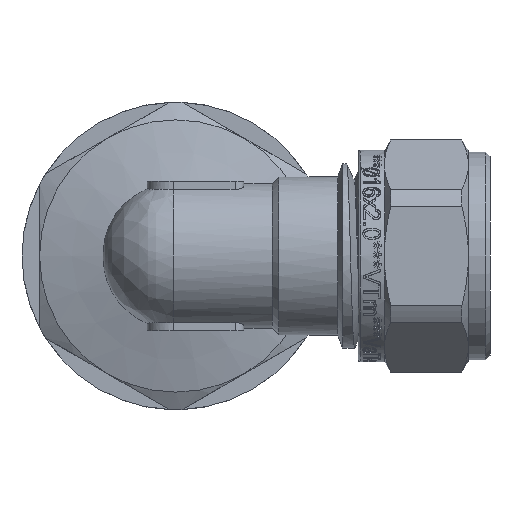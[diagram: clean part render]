
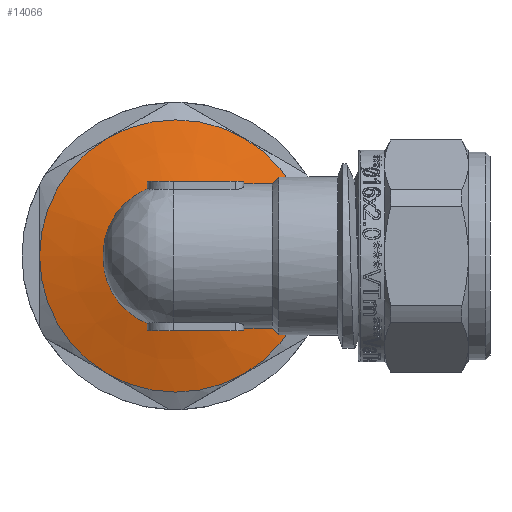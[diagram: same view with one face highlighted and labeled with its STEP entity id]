
A CAD part, front view. The second image highlights one B-rep face of the part: STEP entity #14066.
In plain terms, the highlighted conical face has half-angle 75 degrees and reference radius 11.875 mm.
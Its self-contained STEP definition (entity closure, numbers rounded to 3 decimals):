
#40=(
BOUNDED_CURVE()
B_SPLINE_CURVE(2,(#19609,#19610,#19611),.UNSPECIFIED.,.F.,.F.)
B_SPLINE_CURVE_WITH_KNOTS((3,3),(1.153,2.307),
 .UNSPECIFIED.)
CURVE()
GEOMETRIC_REPRESENTATION_ITEM()
RATIONAL_B_SPLINE_CURVE((1.,1.163,1.))
REPRESENTATION_ITEM('')
);
#42=(
BOUNDED_CURVE()
B_SPLINE_CURVE(2,(#19692,#19693,#19694),.UNSPECIFIED.,.F.,.F.)
B_SPLINE_CURVE_WITH_KNOTS((3,3),(0.,1.153),.UNSPECIFIED.)
CURVE()
GEOMETRIC_REPRESENTATION_ITEM()
RATIONAL_B_SPLINE_CURVE((1.,1.163,1.))
REPRESENTATION_ITEM('')
);
#43=(
BOUNDED_CURVE()
B_SPLINE_CURVE(2,(#19702,#19703,#19704),.UNSPECIFIED.,.F.,.F.)
B_SPLINE_CURVE_WITH_KNOTS((3,3),(0.15,0.3),
 .UNSPECIFIED.)
CURVE()
GEOMETRIC_REPRESENTATION_ITEM()
RATIONAL_B_SPLINE_CURVE((1.003,1.003,1.))
REPRESENTATION_ITEM('')
);
#44=(
BOUNDED_CURVE()
B_SPLINE_CURVE(2,(#19705,#19706,#19707),.UNSPECIFIED.,.F.,.F.)
B_SPLINE_CURVE_WITH_KNOTS((3,3),(0.,0.15),.UNSPECIFIED.)
CURVE()
GEOMETRIC_REPRESENTATION_ITEM()
RATIONAL_B_SPLINE_CURVE((1.,1.003,1.003))
REPRESENTATION_ITEM('')
);
#1598=CONICAL_SURFACE('',#14936,11.875,1.309);
#1668=FACE_OUTER_BOUND('',#2474,.T.);
#2474=EDGE_LOOP('',(#9656,#9657,#9658,#9659,#9660,#9661,#9662,#9663,#9664));
#3347=LINE('',#19779,#4359);
#4359=VECTOR('',#15901,11.875);
#5351=CIRCLE('',#14914,8.25);
#5362=CIRCLE('',#14937,15.5);
#5363=CIRCLE('',#14938,15.5);
#5793=VERTEX_POINT('',#19514);
#5794=VERTEX_POINT('',#19516);
#5809=VERTEX_POINT('',#19607);
#5815=VERTEX_POINT('',#19691);
#5818=VERTEX_POINT('',#19701);
#5830=VERTEX_POINT('',#19775);
#5831=VERTEX_POINT('',#19776);
#7316=EDGE_CURVE('',#5794,#5793,#5351,.T.);
#7334=EDGE_CURVE('',#5793,#5809,#40,.T.);
#7344=EDGE_CURVE('',#5815,#5794,#42,.T.);
#7348=EDGE_CURVE('',#5818,#5815,#43,.T.);
#7349=EDGE_CURVE('',#5809,#5818,#44,.T.);
#7363=EDGE_CURVE('',#5830,#5831,#5362,.T.);
#7364=EDGE_CURVE('',#5831,#5830,#5363,.T.);
#7365=EDGE_CURVE('',#5831,#5818,#3347,.T.);
#9656=ORIENTED_EDGE('',*,*,#7363,.F.);
#9657=ORIENTED_EDGE('',*,*,#7364,.F.);
#9658=ORIENTED_EDGE('',*,*,#7365,.T.);
#9659=ORIENTED_EDGE('',*,*,#7348,.T.);
#9660=ORIENTED_EDGE('',*,*,#7344,.T.);
#9661=ORIENTED_EDGE('',*,*,#7316,.T.);
#9662=ORIENTED_EDGE('',*,*,#7334,.T.);
#9663=ORIENTED_EDGE('',*,*,#7349,.T.);
#9664=ORIENTED_EDGE('',*,*,#7365,.F.);
#14066=ADVANCED_FACE('',(#1668),#1598,.T.);
#14914=AXIS2_PLACEMENT_3D('',#19517,#15840,#15841);
#14936=AXIS2_PLACEMENT_3D('',#19774,#15895,#15896);
#14937=AXIS2_PLACEMENT_3D('',#19777,#15897,#15898);
#14938=AXIS2_PLACEMENT_3D('',#19778,#15899,#15900);
#15840=DIRECTION('center_axis',(0.,1.,0.));
#15841=DIRECTION('ref_axis',(1.,0.,0.));
#15895=DIRECTION('center_axis',(0.,1.,0.));
#15896=DIRECTION('ref_axis',(-1.,0.,0.));
#15897=DIRECTION('center_axis',(0.,1.,0.));
#15898=DIRECTION('ref_axis',(1.,0.,0.));
#15899=DIRECTION('center_axis',(0.,1.,0.));
#15900=DIRECTION('ref_axis',(1.,0.,0.));
#15901=DIRECTION('',(-0.966,-0.259,0.));
#19514=CARTESIAN_POINT('',(4.094,11.057,7.162));
#19516=CARTESIAN_POINT('',(4.094,11.057,-7.162));
#19517=CARTESIAN_POINT('Origin',(0.,11.057,
0.));
#19607=CARTESIAN_POINT('',(14.,12.62,1.5));
#19609=CARTESIAN_POINT('Ctrl Pts',(4.094,11.057,7.162));
#19610=CARTESIAN_POINT('Ctrl Pts',(7.754,11.057,5.07));
#19611=CARTESIAN_POINT('Ctrl Pts',(14.,12.62,1.5));
#19691=CARTESIAN_POINT('',(14.,12.62,-1.5));
#19692=CARTESIAN_POINT('Ctrl Pts',(14.,12.62,-1.5));
#19693=CARTESIAN_POINT('Ctrl Pts',(7.754,11.057,-5.07));
#19694=CARTESIAN_POINT('Ctrl Pts',(4.094,11.057,-7.162));
#19701=CARTESIAN_POINT('',(14.,12.598,0.));
#19702=CARTESIAN_POINT('Ctrl Pts',(14.,12.598,0.));
#19703=CARTESIAN_POINT('Ctrl Pts',(14.,12.598,-0.748));
#19704=CARTESIAN_POINT('Ctrl Pts',(14.,12.62,-1.5));
#19705=CARTESIAN_POINT('Ctrl Pts',(14.,12.62,1.5));
#19706=CARTESIAN_POINT('Ctrl Pts',(14.,12.598,0.748));
#19707=CARTESIAN_POINT('Ctrl Pts',(14.,12.598,0.));
#19774=CARTESIAN_POINT('Origin',(0.,12.029,
0.));
#19775=CARTESIAN_POINT('',(-15.5,13.,0.));
#19776=CARTESIAN_POINT('',(15.5,13.,0.));
#19777=CARTESIAN_POINT('Origin',(0.,13.,0.));
#19778=CARTESIAN_POINT('Origin',(0.,13.,0.));
#19779=CARTESIAN_POINT('',(11.875,12.029,0.));
